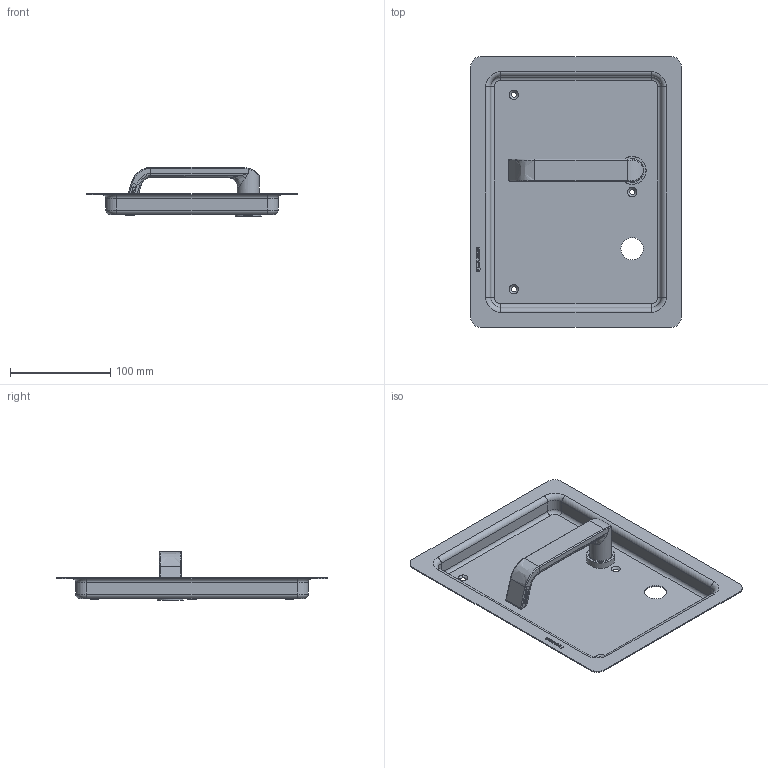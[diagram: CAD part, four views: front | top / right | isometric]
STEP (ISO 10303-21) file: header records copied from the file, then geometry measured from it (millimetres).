
FILE_DESCRIPTION(/* description */ (''),/* implementation_level */ '2;1');
FILE_NAME(/* name */ 'C:\ADSK_DMS_WS\Designs\Vorschläge\Loc Schalen\Muschel Serie 6\S6.20.D2Links\Heusser-Muschel S6.20.D2.278L.stp',/* time_stamp */ '2020-10-15T06:51:31+02:00',/* author */ ('gm'),/* organization */ (''),/* preprocessor_version */ 'ST-DEVELOPER v16.5',/* originating_system */ 'Autodesk Inventor 2017',/* authorisation */ '');
FILE_SCHEMA (('AUTOMOTIVE_DESIGN { 1 0 10303 214 3 1 1 }'));
Length unit declared in the file: millimetre
Products named in the file (1): S6.20.D1.0L
Bounding box: 210 x 270 x 49 mm (x, y, z)
Volume: 112875.2 mm3; surface area: 153533.8 mm2
Topology: 1 solids, 2 shells, 608 faces, 1597 edges, 1034 vertices
Faces by surface type: plane 294, bspline 208, cylinder 69, torus 21, cone 16
Full cylindrical faces by diameter (mm): 1.7 x2, 6 x1, 14.2 x1, 16 x3, 18 x1, 19 x1, 19.1 x1, 22 x1, 22.3 x1, 23 x1, 23.2 x1, 24 x1, 25 x1, 26 x1, 28 x1
Entity records: 20802 total; most frequent: CARTESIAN_POINT 6358, ORIENTED_EDGE 3102, DIRECTION 2315, EDGE_CURVE 1551, VERTEX_POINT 1026, LINE 953, VECTOR 953, EDGE_LOOP 707
